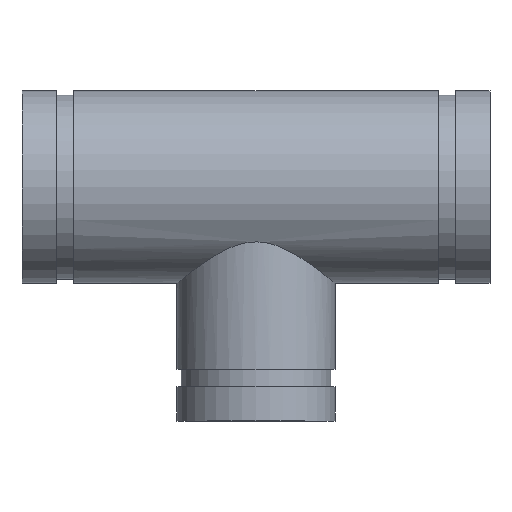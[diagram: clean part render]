
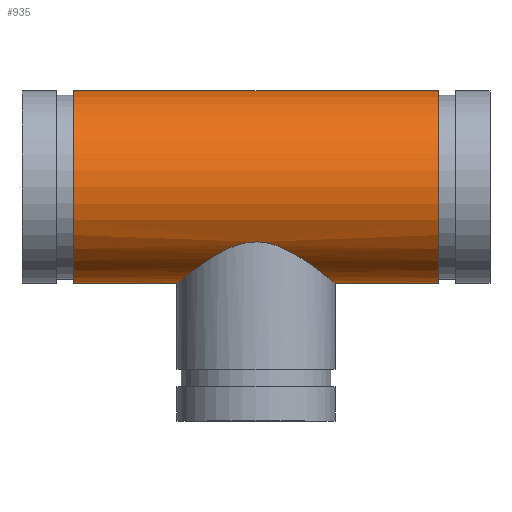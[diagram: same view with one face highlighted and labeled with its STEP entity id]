
A CAD part, top view. The second image highlights one B-rep face of the part: STEP entity #935.
In plain terms, the highlighted cylindrical face has radius 44.45 mm (diameter 88.9 mm), a full revolution.
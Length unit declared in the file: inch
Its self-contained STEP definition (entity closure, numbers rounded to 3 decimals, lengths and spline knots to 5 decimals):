
#61=FACE_BOUND('',#222,.T.);
#67=B_SPLINE_CURVE_WITH_KNOTS('',3,(#1807,#1808,#1809,#1810,#1811,#1812,
#1813,#1814,#1815,#1816,#1817,#1818,#1819,#1820,#1821,#1822,#1823,#1824),
 .UNSPECIFIED.,.F.,.F.,(4,2,2,2,2,2,2,2,4),(0.,0.75591,1.51183,
2.26774,3.02366,3.75167,4.47969,5.20771,
5.93573),.UNSPECIFIED.);
#68=B_SPLINE_CURVE_WITH_KNOTS('',3,(#1825,#1826,#1827,#1828,#1829,#1830,
#1831,#1832,#1833,#1834,#1835,#1836,#1837,#1838,#1839,#1840,#1841,#1842,
#1843,#1844,#1845,#1846,#1847,#1848,#1849,#1850,#1851,#1852,#1853,#1854,
#1855,#1856,#1857,#1858,#1859,#1860,#1861,#1862,#1863,#1864,#1865,#1866,
#1867,#1868,#1869,#1870,#1871,#1872,#1873,#1874),.UNSPECIFIED.,.F.,.F.,
(4,2,2,2,2,2,2,2,2,2,2,2,2,2,2,2,2,2,2,2,2,2,2,2,4),(5.93573,6.66375,
7.39177,8.11979,8.8478,9.60372,10.35963,
11.11555,11.87146,12.62737,13.38329,14.1392,
14.89511,15.62313,16.35115,17.07917,17.80719,
18.53521,19.26323,19.99124,20.71926,21.47518,
22.23109,22.987,23.74292),.UNSPECIFIED.);
#81=CYLINDRICAL_SURFACE('',#1104,1.75);
#103=LINE('',#1804,#125);
#125=VECTOR('',#1432,1.75);
#171=FACE_OUTER_BOUND('',#221,.T.);
#221=EDGE_LOOP('',(#814,#815,#816,#817));
#222=EDGE_LOOP('',(#818,#819));
#326=CIRCLE('',#1087,1.75);
#337=CIRCLE('',#1103,1.75);
#424=VERTEX_POINT('',#1772);
#435=VERTEX_POINT('',#1801);
#436=VERTEX_POINT('',#1805);
#437=VERTEX_POINT('',#1806);
#552=EDGE_CURVE('',#424,#424,#326,.T.);
#565=EDGE_CURVE('',#435,#435,#337,.T.);
#566=EDGE_CURVE('',#435,#424,#103,.T.);
#567=EDGE_CURVE('',#436,#437,#67,.T.);
#568=EDGE_CURVE('',#437,#436,#68,.T.);
#814=ORIENTED_EDGE('',*,*,#565,.T.);
#815=ORIENTED_EDGE('',*,*,#566,.T.);
#816=ORIENTED_EDGE('',*,*,#552,.T.);
#817=ORIENTED_EDGE('',*,*,#566,.F.);
#818=ORIENTED_EDGE('',*,*,#567,.T.);
#819=ORIENTED_EDGE('',*,*,#568,.T.);
#935=ADVANCED_FACE('',(#171,#61),#81,.T.);
#1087=AXIS2_PLACEMENT_3D('',#1773,#1394,#1395);
#1103=AXIS2_PLACEMENT_3D('',#1802,#1428,#1429);
#1104=AXIS2_PLACEMENT_3D('',#1803,#1430,#1431);
#1394=DIRECTION('center_axis',(-1.,0.,0.));
#1395=DIRECTION('ref_axis',(0.,-1.,0.));
#1428=DIRECTION('center_axis',(1.,0.,0.));
#1429=DIRECTION('ref_axis',(0.,-1.,0.));
#1430=DIRECTION('center_axis',(-1.,0.,0.));
#1431=DIRECTION('ref_axis',(0.,-1.,0.));
#1432=DIRECTION('',(1.,0.,0.));
#1772=CARTESIAN_POINT('',(3.312,1.75,0.));
#1773=CARTESIAN_POINT('Origin',(3.312,0.,0.));
#1801=CARTESIAN_POINT('',(-3.312,1.75,0.));
#1802=CARTESIAN_POINT('Origin',(-3.312,0.,0.));
#1803=CARTESIAN_POINT('Origin',(4.25,0.,0.));
#1804=CARTESIAN_POINT('',(4.25,1.75,0.));
#1805=CARTESIAN_POINT('',(0.,-0.99804,-1.4375));
#1806=CARTESIAN_POINT('',(-1.4375,-1.75,0.));
#1807=CARTESIAN_POINT('Ctrl Pts',(0.,-0.99804,
-1.4375));
#1808=CARTESIAN_POINT('Ctrl Pts',(-0.0992,-0.99804,
-1.4375));
#1809=CARTESIAN_POINT('Ctrl Pts',(-0.19686,-1.01324,
-1.42721));
#1810=CARTESIAN_POINT('Ctrl Pts',(-0.38548,-1.06607,
-1.38819));
#1811=CARTESIAN_POINT('Ctrl Pts',(-0.47653,-1.1034,
-1.35947));
#1812=CARTESIAN_POINT('Ctrl Pts',(-0.64952,-1.1884,-1.28583));
#1813=CARTESIAN_POINT('Ctrl Pts',(-0.73154,-1.23602,-1.24085));
#1814=CARTESIAN_POINT('Ctrl Pts',(-0.88372,-1.33175,
-1.1375));
#1815=CARTESIAN_POINT('Ctrl Pts',(-0.95384,-1.37985,
-1.07909));
#1816=CARTESIAN_POINT('Ctrl Pts',(-1.07678,-1.46757,-0.95615));
#1817=CARTESIAN_POINT('Ctrl Pts',(-1.13459,-1.51072,-0.88745));
#1818=CARTESIAN_POINT('Ctrl Pts',(-1.2384,-1.59016,-0.73569));
#1819=CARTESIAN_POINT('Ctrl Pts',(-1.28439,-1.62642,-0.65261));
#1820=CARTESIAN_POINT('Ctrl Pts',(-1.35959,-1.68644,-0.47652));
#1821=CARTESIAN_POINT('Ctrl Pts',(-1.38886,-1.71024,-0.3833));
#1822=CARTESIAN_POINT('Ctrl Pts',(-1.42782,-1.74202,-0.19281));
#1823=CARTESIAN_POINT('Ctrl Pts',(-1.4375,-1.75,-0.09554));
#1824=CARTESIAN_POINT('Ctrl Pts',(-1.4375,-1.75,0.));
#1825=CARTESIAN_POINT('Ctrl Pts',(-1.4375,-1.75,0.));
#1826=CARTESIAN_POINT('Ctrl Pts',(-1.4375,-1.75,0.09554));
#1827=CARTESIAN_POINT('Ctrl Pts',(-1.42782,-1.74202,0.19281));
#1828=CARTESIAN_POINT('Ctrl Pts',(-1.38886,-1.71024,0.3833));
#1829=CARTESIAN_POINT('Ctrl Pts',(-1.35959,-1.68644,0.47652));
#1830=CARTESIAN_POINT('Ctrl Pts',(-1.28439,-1.62642,0.65261));
#1831=CARTESIAN_POINT('Ctrl Pts',(-1.2384,-1.59016,0.73569));
#1832=CARTESIAN_POINT('Ctrl Pts',(-1.13459,-1.51072,0.88745));
#1833=CARTESIAN_POINT('Ctrl Pts',(-1.07678,-1.46757,0.95615));
#1834=CARTESIAN_POINT('Ctrl Pts',(-0.95384,-1.37985,
1.07909));
#1835=CARTESIAN_POINT('Ctrl Pts',(-0.88372,-1.33175,
1.1375));
#1836=CARTESIAN_POINT('Ctrl Pts',(-0.73154,-1.23602,1.24085));
#1837=CARTESIAN_POINT('Ctrl Pts',(-0.64952,-1.1884,1.28583));
#1838=CARTESIAN_POINT('Ctrl Pts',(-0.47653,-1.1034,
1.35947));
#1839=CARTESIAN_POINT('Ctrl Pts',(-0.38548,-1.06607,
1.38819));
#1840=CARTESIAN_POINT('Ctrl Pts',(-0.19686,-1.01324,
1.42721));
#1841=CARTESIAN_POINT('Ctrl Pts',(-0.0992,-0.99804,
1.4375));
#1842=CARTESIAN_POINT('Ctrl Pts',(0.0992,-0.99804,
1.4375));
#1843=CARTESIAN_POINT('Ctrl Pts',(0.19686,-1.01324,1.42721));
#1844=CARTESIAN_POINT('Ctrl Pts',(0.38548,-1.06607,1.38819));
#1845=CARTESIAN_POINT('Ctrl Pts',(0.47653,-1.1034,1.35947));
#1846=CARTESIAN_POINT('Ctrl Pts',(0.64952,-1.1884,1.28583));
#1847=CARTESIAN_POINT('Ctrl Pts',(0.73154,-1.23602,1.24085));
#1848=CARTESIAN_POINT('Ctrl Pts',(0.88372,-1.33175,1.1375));
#1849=CARTESIAN_POINT('Ctrl Pts',(0.95384,-1.37985,1.07909));
#1850=CARTESIAN_POINT('Ctrl Pts',(1.07678,-1.46757,0.95615));
#1851=CARTESIAN_POINT('Ctrl Pts',(1.13459,-1.51072,0.88745));
#1852=CARTESIAN_POINT('Ctrl Pts',(1.2384,-1.59016,0.73569));
#1853=CARTESIAN_POINT('Ctrl Pts',(1.28439,-1.62642,0.65261));
#1854=CARTESIAN_POINT('Ctrl Pts',(1.35959,-1.68644,0.47652));
#1855=CARTESIAN_POINT('Ctrl Pts',(1.38886,-1.71024,0.3833));
#1856=CARTESIAN_POINT('Ctrl Pts',(1.42782,-1.74202,0.19281));
#1857=CARTESIAN_POINT('Ctrl Pts',(1.4375,-1.75,0.09554));
#1858=CARTESIAN_POINT('Ctrl Pts',(1.4375,-1.75,-0.09554));
#1859=CARTESIAN_POINT('Ctrl Pts',(1.42782,-1.74202,-0.19281));
#1860=CARTESIAN_POINT('Ctrl Pts',(1.38886,-1.71024,-0.3833));
#1861=CARTESIAN_POINT('Ctrl Pts',(1.35959,-1.68644,-0.47652));
#1862=CARTESIAN_POINT('Ctrl Pts',(1.28439,-1.62642,-0.65261));
#1863=CARTESIAN_POINT('Ctrl Pts',(1.2384,-1.59016,-0.73569));
#1864=CARTESIAN_POINT('Ctrl Pts',(1.13459,-1.51072,-0.88745));
#1865=CARTESIAN_POINT('Ctrl Pts',(1.07678,-1.46757,-0.95615));
#1866=CARTESIAN_POINT('Ctrl Pts',(0.95384,-1.37985,-1.07909));
#1867=CARTESIAN_POINT('Ctrl Pts',(0.88372,-1.33175,-1.1375));
#1868=CARTESIAN_POINT('Ctrl Pts',(0.73154,-1.23602,-1.24085));
#1869=CARTESIAN_POINT('Ctrl Pts',(0.64952,-1.1884,-1.28583));
#1870=CARTESIAN_POINT('Ctrl Pts',(0.47653,-1.1034,-1.35947));
#1871=CARTESIAN_POINT('Ctrl Pts',(0.38548,-1.06607,-1.38819));
#1872=CARTESIAN_POINT('Ctrl Pts',(0.19686,-1.01324,-1.42721));
#1873=CARTESIAN_POINT('Ctrl Pts',(0.0992,-0.99804,
-1.4375));
#1874=CARTESIAN_POINT('Ctrl Pts',(0.,-0.99804,
-1.4375));
